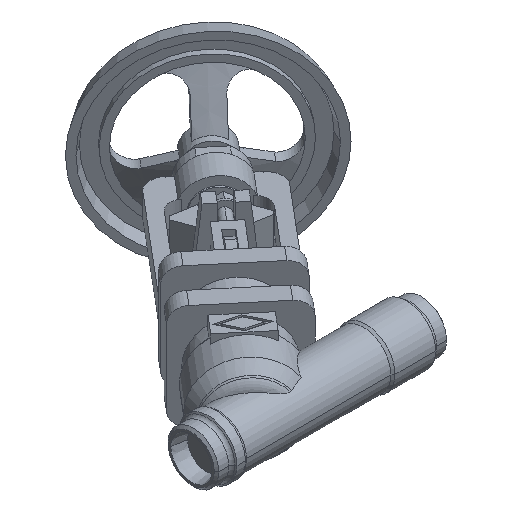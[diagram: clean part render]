
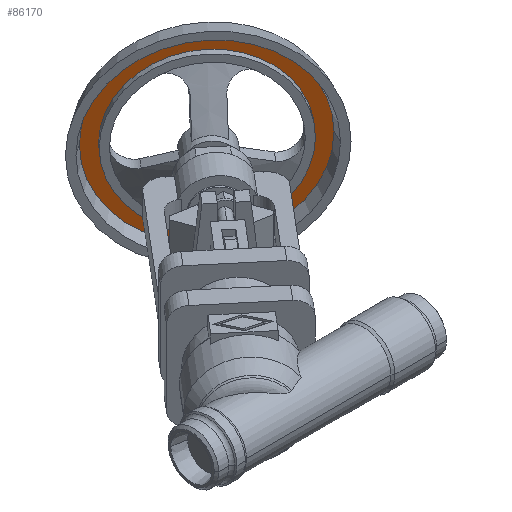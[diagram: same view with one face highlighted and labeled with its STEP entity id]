
A CAD part, isometric view. The second image highlights one B-rep face of the part: STEP entity #86170.
In plain terms, the highlighted planar face has unit normal (-0.643, -0.766, 0).
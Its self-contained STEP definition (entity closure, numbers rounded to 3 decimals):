
#85620=CARTESIAN_POINT('',(244.701,146.261,
0.));
#85630=VERTEX_POINT('',#85620);
#85710=CARTESIAN_POINT('',(149.08,226.496,0.));
#85720=VERTEX_POINT('',#85710);
#85750=CARTESIAN_POINT('',(196.89,186.379,0.));
#85760=DIRECTION('',(0.643,0.766,0.));
#85770=DIRECTION('',(-0.766,0.643,
0.));
#85780=AXIS2_PLACEMENT_3D('',#85750,#85760,#85770);
#85790=CIRCLE('',#85780,62.412);
#85800=EDGE_CURVE('',#85630,#85720,#85790,.T.);
#85920=CARTESIAN_POINT('',(152.685,223.471,
0.));
#85930=DIRECTION('',(-0.643,-0.766,0.));
#85940=DIRECTION('',(0.766,-0.643,
0.));
#85950=AXIS2_PLACEMENT_3D('',#85920,#85930,#85940);
#85960=PLANE('',#85950);
#85970=EDGE_CURVE('',#85720,#85630,#85790,.T.);
#85980=ORIENTED_EDGE('',*,*,#85970,.F.);
#85990=ORIENTED_EDGE('',*,*,#85800,.F.);
#86000=EDGE_LOOP('',(#85990,#85980));
#86010=FACE_OUTER_BOUND('',#86000,.T.);
#86020=CARTESIAN_POINT('',(196.89,186.379,0.));
#86030=DIRECTION('',(0.643,0.766,
0.));
#86040=DIRECTION('',(-0.766,0.643,
0.));
#86050=AXIS2_PLACEMENT_3D('',#86020,#86030,#86040);
#86060=CIRCLE('',#86050,53.);
#86070=CARTESIAN_POINT('',(156.29,220.446,
0.));
#86080=VERTEX_POINT('',#86070);
#86090=CARTESIAN_POINT('',(237.491,152.311,
0.));
#86100=VERTEX_POINT('',#86090);
#86110=EDGE_CURVE('',#86080,#86100,#86060,.T.);
#86120=ORIENTED_EDGE('',*,*,#86110,.T.);
#86130=EDGE_CURVE('',#86100,#86080,#86060,.T.);
#86140=ORIENTED_EDGE('',*,*,#86130,.T.);
#86150=EDGE_LOOP('',(#86140,#86120));
#86160=FACE_BOUND('',#86150,.T.);
#86170=ADVANCED_FACE('',(#86010,#86160),#85960,.T.);
